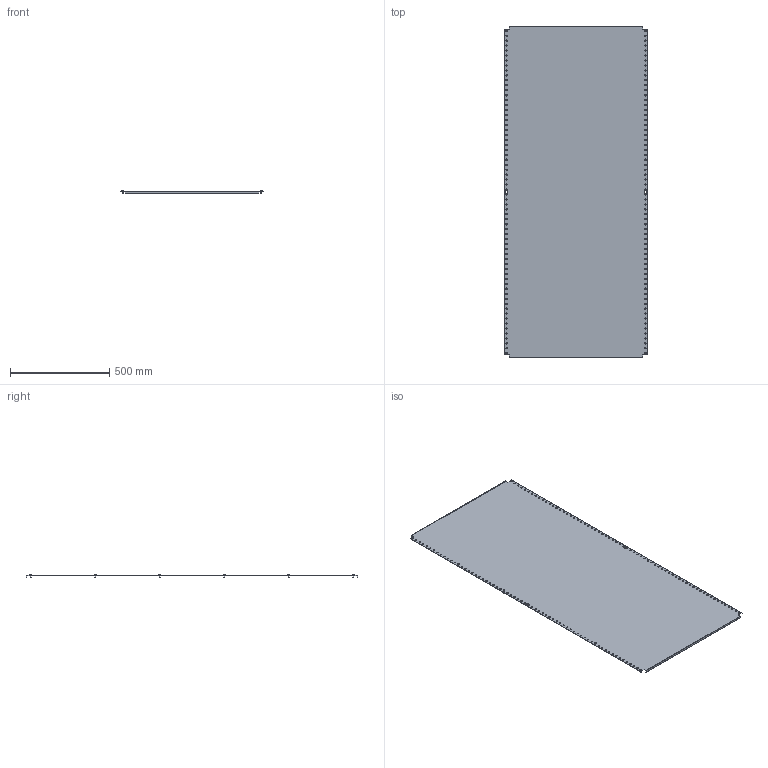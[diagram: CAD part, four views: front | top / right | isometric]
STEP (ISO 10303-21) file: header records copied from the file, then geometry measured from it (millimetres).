
FILE_DESCRIPTION (( 'STEP AP203' ), '1' );
FILE_NAME ('R6MP1880.STEP', '2025-03-28T12:11:16', ( '' ), ( '' ), 'SwSTEP 2.0', 'SolidWorks 2022', '' );
FILE_SCHEMA (( 'CONFIG_CONTROL_DESIGN' ));
Length unit declared in the file: millimetre
Products named in the file (3): R6MP1880; RB.3293.00.00.0_-23; M5x12 DIN 7500 C Torx Zinc_stright
Assembly tree (13 placements, depth 2):
  R6MP1880
    RB.3293.00.00.0_-23
    M5x12 DIN 7500 C Torx Zinc_stright  x12
Bounding box: 725 x 1670 x 15.56 mm (x, y, z)
Volume: 2192952.9 mm3; surface area: 2449744.3 mm2
Topology: 13 solids, 13 shells, 358 faces, 852 edges, 532 vertices
Faces by surface type: cylinder 160, plane 126, torus 24, cone 24, sphere 12, bspline 12
Full cylindrical faces by diameter (mm): 5 x12, 6.5 x132, 9.5 x12
Entity records: 6757 total; most frequent: CARTESIAN_POINT 1124, DIRECTION 1052, ORIENTED_EDGE 760, EDGE_LOOP 590, AXIS2_PLACEMENT_3D 482, EDGE_CURVE 380, VERTEX_POINT 342, FACE_OUTER_BOUND 320
